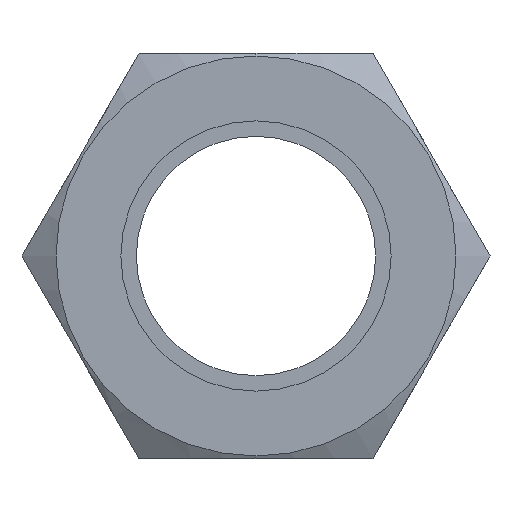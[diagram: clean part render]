
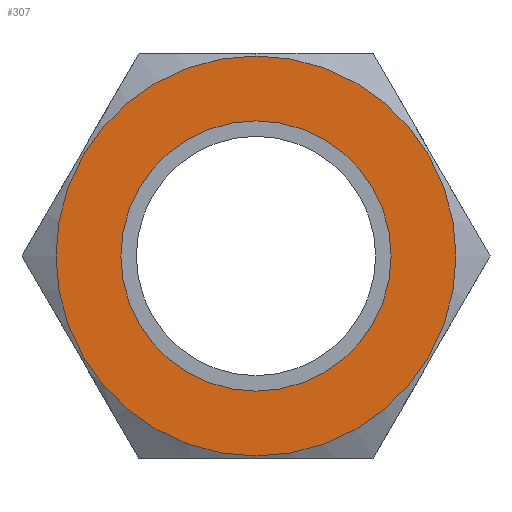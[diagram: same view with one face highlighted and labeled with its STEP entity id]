
A CAD part, left-side view. The second image highlights one B-rep face of the part: STEP entity #307.
In plain terms, the highlighted planar face has unit normal (-1, 0, 0).
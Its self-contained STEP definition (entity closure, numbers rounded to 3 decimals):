
#95 = VERTEX_POINT ( 'NONE', #800 ) ;
#97 = EDGE_CURVE ( 'NONE', #98, #95, #799, .T. ) ;
#98 = VERTEX_POINT ( 'NONE', #794 ) ;
#109 = VERTEX_POINT ( 'NONE', #894 ) ;
#111 = EDGE_CURVE ( 'NONE', #109, #112, #893, .T. ) ;
#112 = VERTEX_POINT ( 'NONE', #888 ) ;
#307 = ADVANCED_FACE ( 'NONE', ( #1324, #1323 ), #1322, .T. ) ;
#308 = EDGE_LOOP ( 'NONE', ( #462, #464 ) ) ;
#462 = ORIENTED_EDGE ( 'NONE', *, *, #463, .F. ) ;
#463 = EDGE_CURVE ( 'NONE', #112, #109, #1711, .T. ) ;
#464 = ORIENTED_EDGE ( 'NONE', *, *, #111, .F. ) ;
#465 = EDGE_LOOP ( 'NONE', ( #466, #467 ) ) ;
#466 = ORIENTED_EDGE ( 'NONE', *, *, #97, .T. ) ;
#467 = ORIENTED_EDGE ( 'NONE', *, *, #469, .T. ) ;
#469 = EDGE_CURVE ( 'NONE', #95, #98, #1697, .T. ) ;
#794 = CARTESIAN_POINT ( 'NONE',  ( -26.95, 0., 18.8 ) ) ;
#795 = DIRECTION ( 'NONE',  ( 0., 0., 1. ) ) ;
#796 = DIRECTION ( 'NONE',  ( -1., 0., 0. ) ) ;
#797 = CARTESIAN_POINT ( 'NONE',  ( -26.95, 0., 0. ) ) ;
#798 = AXIS2_PLACEMENT_3D ( 'NONE', #797, #796, #795 ) ;
#799 = CIRCLE ( 'NONE', #798, 18.8 ) ;
#800 = CARTESIAN_POINT ( 'NONE',  ( -26.95, 0., -18.8 ) ) ;
#888 = CARTESIAN_POINT ( 'NONE',  ( -26.95, 0., 12.7 ) ) ;
#889 = DIRECTION ( 'NONE',  ( 0., 0., 1. ) ) ;
#890 = DIRECTION ( 'NONE',  ( -1., 0., 0. ) ) ;
#891 = CARTESIAN_POINT ( 'NONE',  ( -26.95, 0., 0. ) ) ;
#892 = AXIS2_PLACEMENT_3D ( 'NONE', #891, #890, #889 ) ;
#893 = CIRCLE ( 'NONE', #892, 12.7 ) ;
#894 = CARTESIAN_POINT ( 'NONE',  ( -26.95, 0., -12.7 ) ) ;
#1318 = DIRECTION ( 'NONE',  ( 0., 0., 1. ) ) ;
#1319 = DIRECTION ( 'NONE',  ( -1., 0., 0. ) ) ;
#1320 = AXIS2_PLACEMENT_3D ( 'NONE', #1321, #1319, #1318 ) ;
#1321 = CARTESIAN_POINT ( 'NONE',  ( -26.95, 21.997, 0. ) ) ;
#1322 = PLANE ( 'NONE',  #1320 ) ;
#1323 = FACE_OUTER_BOUND ( 'NONE', #465, .T. ) ;
#1324 = FACE_BOUND ( 'NONE', #308, .T. ) ;
#1697 = CIRCLE ( 'NONE', #1846, 18.8 ) ;
#1698 = DIRECTION ( 'NONE',  ( 0., 0., 1. ) ) ;
#1699 = DIRECTION ( 'NONE',  ( -1., 0., 0. ) ) ;
#1710 = AXIS2_PLACEMENT_3D ( 'NONE', #1725, #1699, #1698 ) ;
#1711 = CIRCLE ( 'NONE', #1710, 12.7 ) ;
#1725 = CARTESIAN_POINT ( 'NONE',  ( -26.95, 0., 0. ) ) ;
#1829 = DIRECTION ( 'NONE',  ( 0., 0., 1. ) ) ;
#1844 = DIRECTION ( 'NONE',  ( -1., 0., 0. ) ) ;
#1845 = CARTESIAN_POINT ( 'NONE',  ( -26.95, 0., 0. ) ) ;
#1846 = AXIS2_PLACEMENT_3D ( 'NONE', #1845, #1844, #1829 ) ;
